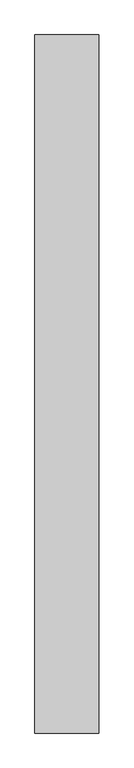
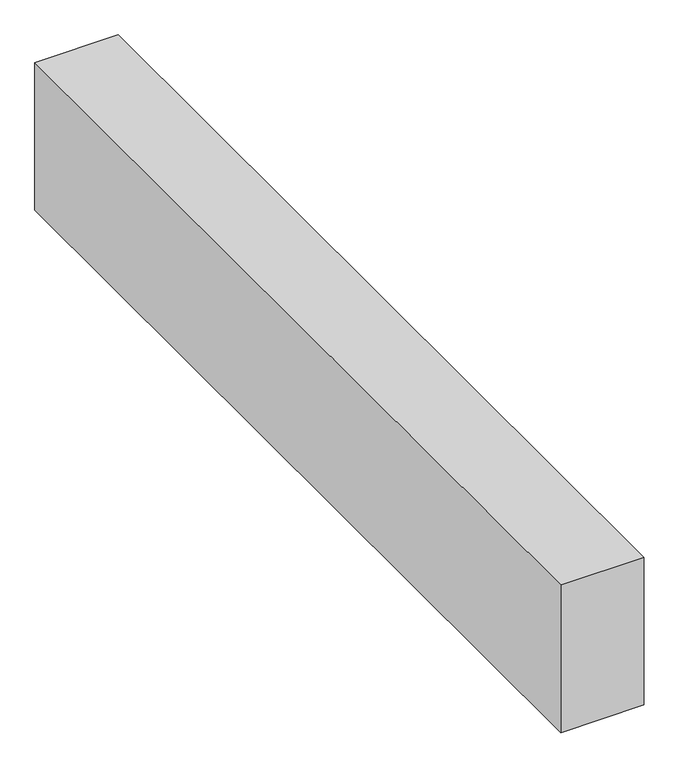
"""IFC4 building model written with IfcOpenShell, lengths in millimetres: proxy geometry."""

from ifc_helpers import new_model, si_unit, frame, origin, place, context, project, spatial, polyline, outline, extrude, source, transform, mapped, element, save


def structural_framing_e2ff165e(model_context):
    return source(origin(), model_context, "Body", "SweptSolid", [
        extrude(outline(polyline([(80.0, -875.0), (-80.0, -875.0), (-80.0, 875.0), (80.0, 875.0), (80.0, -875.0)])), frame((0.0, 0.0, -300.0), z_axis=(0.0, 0.0, 1.0), x_axis=(1.0, 0.0, 0.0)), (0.0, 0.0, 1.0), 300.0),
    ])


if __name__ == "__main__":
    model = new_model("IFC4")
    model_context = context("Model", 3, world=origin())
    ifc_project = project(units=[si_unit("LENGTHUNIT", "METRE", prefix="MILLI")], contexts=[model_context])
    site = spatial("IfcSite", under=ifc_project)
    building = spatial("IfcBuilding", under=site)
    placement = place(None, origin())
    structural_framing_shape = structural_framing_e2ff165e(model_context)
    element("IfcBuildingElementProxy", 1, Name="Structural Framing", at=placement, inside=building, context=model_context, shape_type="MappedRepresentation", body=[
        mapped(structural_framing_shape, transform((0.0, 0.0, 0.0), x_axis=(1.0, 0.0, 0.0), y_axis=(0.0, 1.0, 0.0), z_axis=(0.0, 0.0, 1.0))),
    ])
    save(model, "model.ifc")
